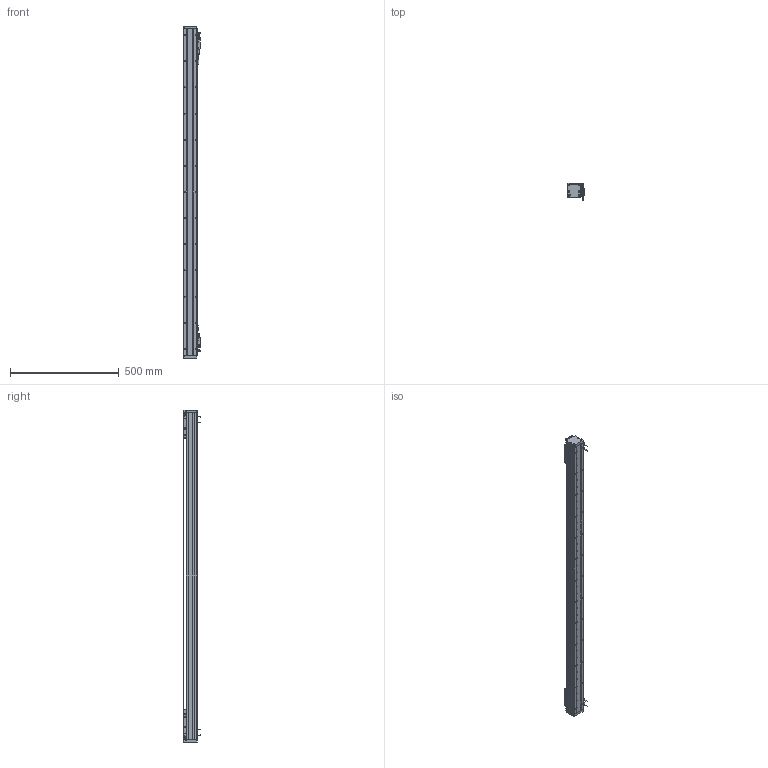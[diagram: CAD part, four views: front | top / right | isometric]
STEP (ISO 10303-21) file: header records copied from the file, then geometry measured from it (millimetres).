
FILE_DESCRIPTION (( 'STEP AP203' ), '1' );
FILE_NAME ('DA-A60-2-B1-T1260-C010-0.2 眻盄萇儂.STEP', '2025-08-13T01:26:45', ( '' ), ( '' ), 'SwSTEP 2.0', 'SolidWorks 2019', '' );
FILE_SCHEMA (( 'CONFIG_CONTROL_DESIGN' ));
Length unit declared in the file: millimetre
Products named in the file (30): 葩璃 鞠褒情蹟譫 M3^DA-A60-2-B1-T60-C010-0.2-N(GB_FASTENER_NUT_STNAB M3-C); DA-A60-GD-1020-00 钢带盖板(默认); DA60-YT-B1-HT-B-01 珨极趙賑雄怢啣; DA60-XJ-00 砎蝶結輸; 葩璃 DA60-DMT-DTJ-00 黍杅芛盓殤^DA-A60-2-B1-T60-C010-0.2-N; 13679-0000-006-00  钢带压块(默认); DA60嶺詩湍郪璃-T1060; ｸｴｼ DA60-GYP-ZJ-01 ﾖﾐｼ荵箏邵ﾐﾓｦﾆｬ^DA-A60-2-B1-T60-C010-0.2-N(ﾄｬﾈﾏ); DA60-B1-HT-B-03 賑雄怢啣; DA-A60-2-B1-T1260-C010-0.2 眻盄萇儂; ｸｴｼ DA60-DMT-DTJ-ZJ-00 ﾖﾐｼ荼ﾁﾊﾍｷﾖｧｼﾜ^DA-A60-2-B1-T60-C010-0.2-N; 葩璃 PM-T45^DA-A60-2-B1-T60-C010-0.2-N; IU-AU60-L-00 菁釱(1500); 葩璃 AKM01-W030-TRL^DA-A60-2-B1-T60-C010-0.2-N; 复件 DA60-HC-XJ-01 中间缓冲橡胶^DA-A60-2-B1-T60-C010-0.2-N; 13679-0000-005-00 詩湍嶺輸; 葩璃 DMT-010 1米m 0.2M^DA-A60-2-B1-T60-C010-0.2-N; 葩璃 PM-Y65^DA-A60-2-B1-T60-C010-0.2-N; AU60-V 幗紩賑怢-1; 复件 DA60-B1-GT-00 滑块钢轨^DA60-YT-B1-HT-B-01 一体化滑动台板; 葩璃 XD-U-02  棠掑喜^DA-A60-2-B1-T60-C010-0.2-N; AU60-V 幗紩賑怢; ｸｴｼ DA-A60-GYP-DMT-00 ｹ箏邵ﾐﾓｦﾆｬ^DA-A60-2-B1-T60-C010-0.2-N(ﾄｬﾈﾏ); AU60-L 菁釱絳寢; ｸｴｼ BAKM01-W030-C1-TP-0.2 ﾖｱﾏﾟｵ扈巐ｯﾗﾓ^DA-A60-2-B1-T60-C010-0.2-N; 葩璃 DA60-HK-DP-01 結え^AU60-V 幗紩賑怢; 复件 DA60-GT-T-00 底座钢轨^AU60-L 底座导轨; 复件 纯铜油杯 6x6mm^AU60-V 滚珠滑台; 13679-0000-004-00 傷啣; DA60-YT-B1-HT-B-01 珨极趙賑雄怢啣-1
Assembly tree (56 placements, depth 4):
  DA-A60-2-B1-T1260-C010-0.2 眻盄萇儂
    AU60-L 菁釱絳寢
      IU-AU60-L-00 菁釱(1500)
      复件 DA60-GT-T-00 底座钢轨^AU60-L 底座导轨  x2
    AU60-V 幗紩賑怢
      DA60-YT-B1-HT-B-01 珨极趙賑雄怢啣
        DA60-B1-HT-B-03 賑雄怢啣
        复件 DA60-B1-GT-00 滑块钢轨^DA60-YT-B1-HT-B-01 一体化滑动台板  x2
      葩璃 DA60-HK-DP-01 結え^AU60-V 幗紩賑怢  x2
      复件 纯铜油杯 6x6mm^AU60-V 滚珠滑台
    AU60-V 幗紩賑怢-1
      DA60-YT-B1-HT-B-01 珨极趙賑雄怢啣-1
        DA60-B1-HT-B-03 賑雄怢啣
        复件 DA60-B1-GT-00 滑块钢轨^DA60-YT-B1-HT-B-01 一体化滑动台板  x2
      葩璃 DA60-HK-DP-01 結え^AU60-V 幗紩賑怢  x2
      复件 纯铜油杯 6x6mm^AU60-V 滚珠滑台
    DA60嶺詩湍郪璃-T1060
      13679-0000-006-00  钢带压块(默认)  x2
      DA-A60-GD-1020-00 钢带盖板(默认)
      13679-0000-004-00 傷啣  x2
      DA60-XJ-00 砎蝶結輸  x2
      13679-0000-005-00 詩湍嶺輸  x2
    ｸｴｼ DA60-DMT-DTJ-ZJ-00 ﾖﾐｼ荼ﾁﾊﾍｷﾖｧｼﾜ^DA-A60-2-B1-T60-C010-0.2-N
    葩璃 PM-Y65^DA-A60-2-B1-T60-C010-0.2-N
    复件 DA60-HC-XJ-01 中间缓冲橡胶^DA-A60-2-B1-T60-C010-0.2-N  x2
    ｸｴｼ DA60-GYP-ZJ-01 ﾖﾐｼ荵箏邵ﾐﾓｦﾆｬ^DA-A60-2-B1-T60-C010-0.2-N(ﾄｬﾈﾏ)
    ｸｴｼ DA-A60-GYP-DMT-00 ｹ箏邵ﾐﾓｦﾆｬ^DA-A60-2-B1-T60-C010-0.2-N(ﾄｬﾈﾏ)  x2
    葩璃 DA60-DMT-DTJ-00 黍杅芛盓殤^DA-A60-2-B1-T60-C010-0.2-N
    葩璃 DMT-010 1米m 0.2M^DA-A60-2-B1-T60-C010-0.2-N  x2
    ｸｴｼ BAKM01-W030-C1-TP-0.2 ﾖｱﾏﾟｵ扈巐ｯﾗﾓ^DA-A60-2-B1-T60-C010-0.2-N  x2
    葩璃 AKM01-W030-TRL^DA-A60-2-B1-T60-C010-0.2-N
    葩璃 PM-T45^DA-A60-2-B1-T60-C010-0.2-N  x4
    葩璃 XD-U-02  棠掑喜^DA-A60-2-B1-T60-C010-0.2-N
    葩璃 鞠褒情蹟譫 M3^DA-A60-2-B1-T60-C010-0.2-N(GB_FASTENER_NUT_STNAB M3-C)  x8
Bounding box: 76.95 x 80 x 1524 mm (x, y, z)
Volume: 3088431 mm3; surface area: 1112847 mm2
Topology: 61 solids, 65 shells, 3249 faces, 8911 edges, 5680 vertices
Faces by surface type: plane 1576, cylinder 1361, cone 280, bspline 22, torus 8, sphere 2
Entity records: 82538 total; most frequent: CARTESIAN_POINT 19471, ORIENTED_EDGE 12668, DIRECTION 11974, EDGE_CURVE 6334, VERTEX_POINT 4126, AXIS2_PLACEMENT_3D 4102, VECTOR 3770, LINE 3770
